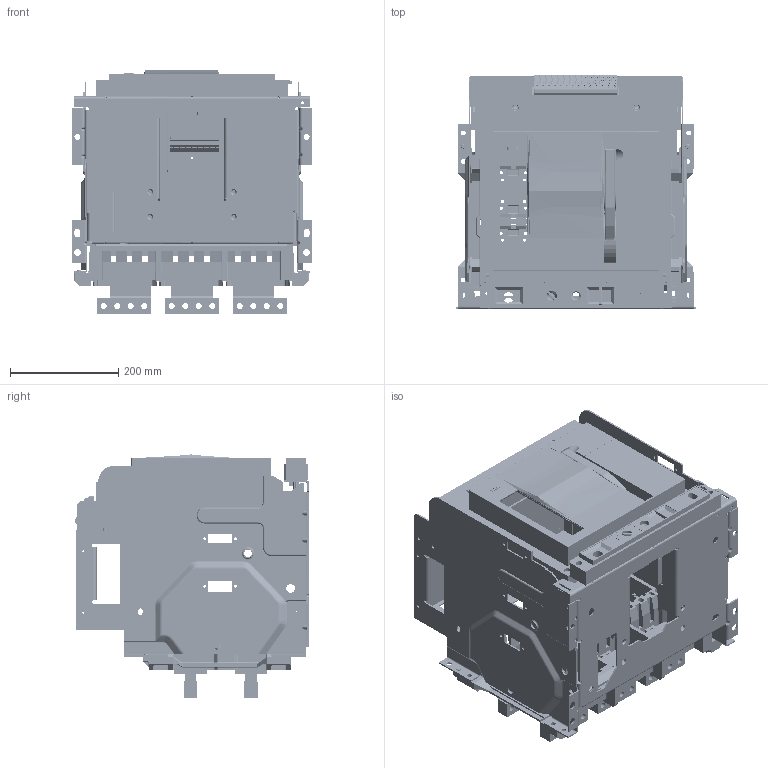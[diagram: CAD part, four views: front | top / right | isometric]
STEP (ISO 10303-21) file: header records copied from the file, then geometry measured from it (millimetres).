
FILE_DESCRIPTION((''),'2;1');
FILE_NAME('NA8G-3200-DO-3200-3P_ASM','2020-05-13T08:39:45',('lcc'),(''),'CREO PARAMETRIC BY PTC INC, 2018020','CREO PARAMETRIC BY PTC INC, 2018020','');
FILE_SCHEMA(('CONFIG_CONTROL_DESIGN','SHAPE_APPEARANCE_LAYERS_GROUPS'));
Products named in the file (33): 8-055-091; 8-050-238; 8-050-239; 8ZTD-300-043; 8-300-151; SHIZ45FFX1IS; DW45-3200-DIJIA-3P_ASM; 8-060-145-4; 8ZTD-580-221-1; 8ZTD-580-286; 8ZTD-580-285; 8ZTD-227-004; 8ZTD-860-049-2; 8ZTD-235-048; 8-253-034; 8-253-289; 8-253-290; 8-253-309; 8ZTD-300-253; 8ZTD-024-837; 8ZTD-557-514; 8ZTD-557-515; 8ZTD-557-516; 8ZTD-557-517; M3_GB6170; M3X8_GB818; 8ZTD-141-185; 8ZTD-141-184; 5ZTD-558-712_ASM; 8ZTD-860-699; 8ZTD-064-136; 5ZTD-558-695-4000_ASM; NA8G-3200-DO-3200-3P_ASM
Assembly tree (60 placements, depth 4):
  NA8G-3200-DO-3200-3P_ASM
    8-055-091
    8-050-238
    8-050-239
    8ZTD-300-043
    8-300-151
    DW45-3200-DIJIA-3P_ASM
      SHIZ45FFX1IS
    8-060-145-4
    8ZTD-580-221-1  x6
    8ZTD-580-286  x2
    8ZTD-580-285  x4
    8ZTD-227-004
    8ZTD-860-049-2
    8ZTD-235-048
    8-253-034
    8-253-289
    8-253-290
    8-253-309
    8ZTD-300-253
    5ZTD-558-695-4000_ASM
      5ZTD-558-712_ASM  x14
        8ZTD-024-837
        8ZTD-557-514
        8ZTD-557-515
        8ZTD-557-516
        8ZTD-557-517
        M3_GB6170
        M3X8_GB818
        8ZTD-141-185
        8ZTD-141-184
      8ZTD-860-699
      8ZTD-064-136
Bounding box: 443 x 433.03 x 450 mm (x, y, z)
Volume: 6966884.3 mm3; surface area: 3658054.3 mm2
Topology: 238 solids, 253 shells, 21660 faces, 58114 edges, 37370 vertices
Faces by surface type: plane 14930, cylinder 4085, cone 1052, bspline 882, torus 421, sphere 290
Entity records: 275130 total; most frequent: CARTESIAN_POINT 53694, ORIENTED_EDGE 38262, DIRECTION 36104, EDGE_CURVE 19174, VECTOR 14456, LINE 14456, PRESENTATION_STYLE_ASSIGNMENT 13101, STYLED_ITEM 13098
